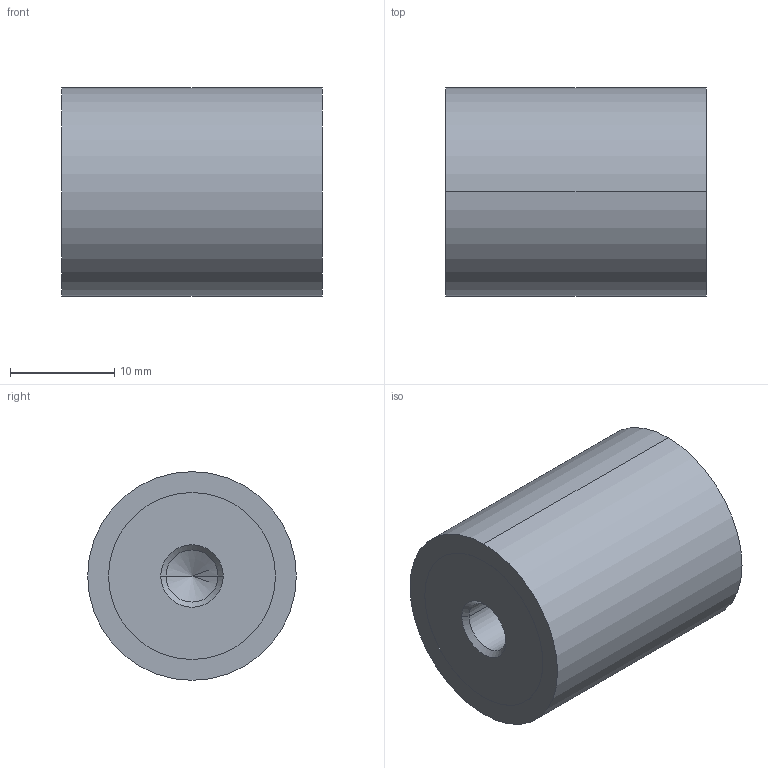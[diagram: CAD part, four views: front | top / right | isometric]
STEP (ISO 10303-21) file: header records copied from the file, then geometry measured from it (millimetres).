
FILE_DESCRIPTION (( 'STEP AP214' ), '1' );
FILE_NAME ('351-20-25-M6-EE-40.step', '2025-07-23T09:55:35', ( '' ), ( '' ), 'SwSTEP 2.0', 'SolidWorks 2022', '' );
FILE_SCHEMA (( 'AUTOMOTIVE_DESIGN' ));
Length unit declared in the file: millimetre
Products named in the file (1): 351-20-25-M6-EE-40
Bounding box: 25 x 20 x 20 mm (x, y, z)
Volume: 7553.4 mm3; surface area: 2416.9 mm2
Topology: 1 solids, 1 shells, 28 faces, 58 edges, 34 vertices
Faces by surface type: cylinder 14, cone 8, plane 6
Entity records: 844 total; most frequent: DIRECTION 144, CARTESIAN_POINT 117, ORIENTED_EDGE 108, AXIS2_PLACEMENT_3D 61, EDGE_CURVE 54, VERTEX_POINT 34, EDGE_LOOP 34, CIRCLE 32
